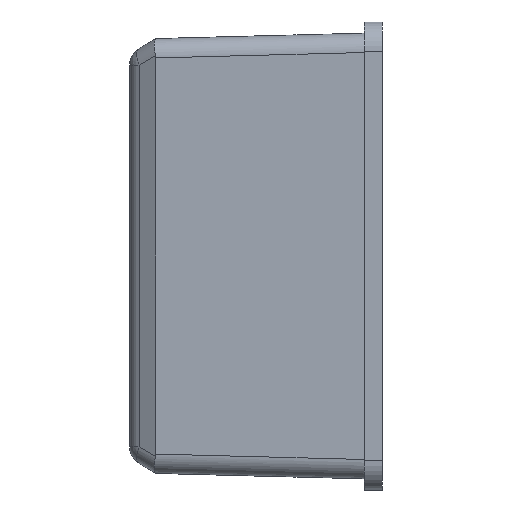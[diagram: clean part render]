
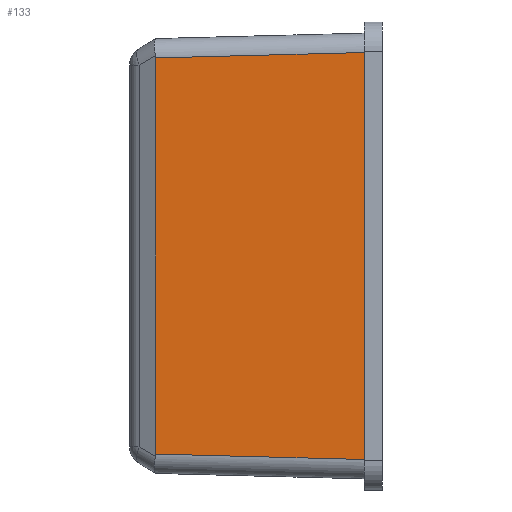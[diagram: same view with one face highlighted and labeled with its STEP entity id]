
A CAD part, left-side view. The second image highlights one B-rep face of the part: STEP entity #133.
In plain terms, the highlighted planar face has unit normal (-1, 0.026, 0) as drawn and (-1, -0.026, 0) by its records, which use the part's own axes.
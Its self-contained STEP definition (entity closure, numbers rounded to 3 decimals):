
#50 = FACE_OUTER_BOUND ( 'NONE', #6432, .T. ) ;
#133 = ADVANCED_FACE ( 'NONE', ( #50 ), #2382, .T. ) ;
#1592 = LINE ( 'NONE', #6445, #6032 ) ;
#1679 = DIRECTION ( 'NONE',  ( 0.026, -1., 0. ) ) ;
#1875 = VECTOR ( 'NONE', #5221, 1000. ) ;
#2225 = AXIS2_PLACEMENT_3D ( 'NONE', #5456, #2897, #1679 ) ;
#2382 = PLANE ( 'NONE',  #2225 ) ;
#2764 = DIRECTION ( 'NONE',  ( 0., 0., 1. ) ) ;
#2829 = CARTESIAN_POINT ( 'NONE',  ( -32.388, -21.478, 22.366 ) ) ;
#2834 = CARTESIAN_POINT ( 'NONE',  ( -32.388, -21.478, 20.438 ) ) ;
#2897 = DIRECTION ( 'NONE',  ( -1., -0.026, 0. ) ) ;
#2924 = VERTEX_POINT ( 'NONE', #2834 ) ;
#3022 = DIRECTION ( 'NONE',  ( 0.026, -0.999, 0.026 ) ) ;
#3611 = EDGE_CURVE ( 'NONE', #5145, #6254, #4320, .T. ) ;
#4064 = DIRECTION ( 'NONE',  ( 0., 0., 1. ) ) ;
#4100 = ORIENTED_EDGE ( 'NONE', *, *, #4558, .T. ) ;
#4173 = VECTOR ( 'NONE', #4064, 1000. ) ;
#4257 = CARTESIAN_POINT ( 'NONE',  ( -32.388, -21.478, -20.438 ) ) ;
#4320 = LINE ( 'NONE', #6692, #6162 ) ;
#4558 = EDGE_CURVE ( 'NONE', #6254, #2924, #6387, .T. ) ;
#4591 = CARTESIAN_POINT ( 'NONE',  ( -32.92, -1.151, 20.971 ) ) ;
#4624 = CARTESIAN_POINT ( 'NONE',  ( -32.95, 0., -21.001 ) ) ;
#5073 = ORIENTED_EDGE ( 'NONE', *, *, #3611, .T. ) ;
#5108 = ORIENTED_EDGE ( 'NONE', *, *, #5142, .T. ) ;
#5142 = EDGE_CURVE ( 'NONE', #2924, #6886, #5425, .T. ) ;
#5145 = VERTEX_POINT ( 'NONE', #4624 ) ;
#5221 = DIRECTION ( 'NONE',  ( -0.026, 0.999, 0.026 ) ) ;
#5425 = LINE ( 'NONE', #4591, #1875 ) ;
#5456 = CARTESIAN_POINT ( 'NONE',  ( -32.95, 0., -23. ) ) ;
#6031 = EDGE_CURVE ( 'NONE', #5145, #6886, #1592, .T. ) ;
#6032 = VECTOR ( 'NONE', #2764, 1000. ) ;
#6162 = VECTOR ( 'NONE', #3022, 1000. ) ;
#6174 = ORIENTED_EDGE ( 'NONE', *, *, #6031, .F. ) ;
#6254 = VERTEX_POINT ( 'NONE', #4257 ) ;
#6387 = LINE ( 'NONE', #2829, #4173 ) ;
#6432 = EDGE_LOOP ( 'NONE', ( #4100, #5108, #6174, #5073 ) ) ;
#6445 = CARTESIAN_POINT ( 'NONE',  ( -32.95, 0., -23. ) ) ;
#6692 = CARTESIAN_POINT ( 'NONE',  ( -32.951, 0.052, -21.002 ) ) ;
#6886 = VERTEX_POINT ( 'NONE', #7321 ) ;
#7321 = CARTESIAN_POINT ( 'NONE',  ( -32.95, 0., 21.001 ) ) ;
